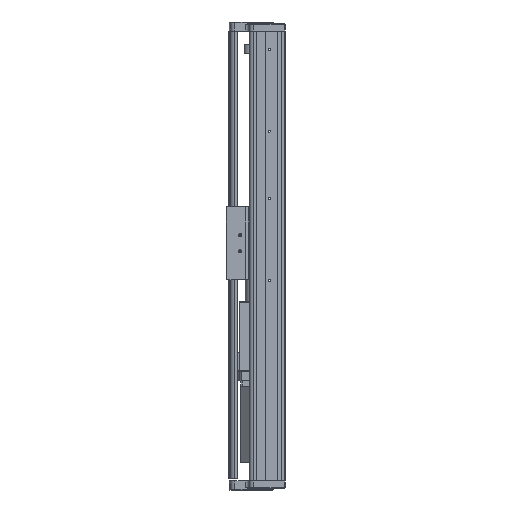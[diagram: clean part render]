
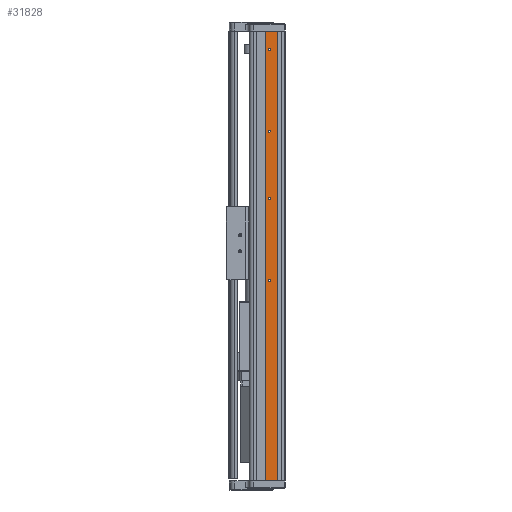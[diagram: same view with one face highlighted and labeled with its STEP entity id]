
A CAD part, left-side view. The second image highlights one B-rep face of the part: STEP entity #31828.
In plain terms, the highlighted planar face has unit normal (-1, 0, 0).
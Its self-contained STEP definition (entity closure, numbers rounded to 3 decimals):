
#2833 = CARTESIAN_POINT ( 'NONE',  ( 102.378, 0., 494. ) ) ;
#2837 = PLANE ( 'NONE',  #20838 ) ;
#2849 = DIRECTION ( 'NONE',  ( 0., 0., -1. ) ) ;
#2852 = DIRECTION ( 'NONE',  ( 1., 0., 0. ) ) ;
#3781 = FACE_BOUND ( 'NONE', #14913, .T. ) ;
#3782 = FACE_BOUND ( 'NONE', #14929, .T. ) ;
#3783 = FACE_BOUND ( 'NONE', #14910, .T. ) ;
#3809 = FACE_OUTER_BOUND ( 'NONE', #14839, .T. ) ;
#3824 = FACE_BOUND ( 'NONE', #14892, .T. ) ;
#7109 = CIRCLE ( 'NONE', #15701, 1.25 ) ;
#7118 = CIRCLE ( 'NONE', #15660, 1.25 ) ;
#7122 = CIRCLE ( 'NONE', #15689, 1.25 ) ;
#7154 = CIRCLE ( 'NONE', #15688, 1.25 ) ;
#9636 = CARTESIAN_POINT ( 'NONE',  ( 102.378, 63.262, 311.25 ) ) ;
#9670 = CARTESIAN_POINT ( 'NONE',  ( 102.378, 63.262, 218.75 ) ) ;
#9682 = CARTESIAN_POINT ( 'NONE',  ( 102.378, 63.262, 385.25 ) ) ;
#9683 = CARTESIAN_POINT ( 'NONE',  ( 102.378, 63.262, 382.75 ) ) ;
#9720 = CARTESIAN_POINT ( 'NONE',  ( 102.378, 63.262, 475.25 ) ) ;
#9725 = CARTESIAN_POINT ( 'NONE',  ( 102.378, 63.262, 221.25 ) ) ;
#9737 = CARTESIAN_POINT ( 'NONE',  ( 102.378, 63.262, 472.75 ) ) ;
#9756 = CARTESIAN_POINT ( 'NONE',  ( 102.378, 63.262, 308.75 ) ) ;
#11393 = VERTEX_POINT ( 'NONE', #21518 ) ;
#11411 = VERTEX_POINT ( 'NONE', #21557 ) ;
#11571 = VERTEX_POINT ( 'NONE', #22297 ) ;
#11583 = VERTEX_POINT ( 'NONE', #22324 ) ;
#12496 = ORIENTED_EDGE ( 'NONE', *, *, #50286, .T. ) ;
#12518 = ORIENTED_EDGE ( 'NONE', *, *, #49057, .T. ) ;
#12540 = ORIENTED_EDGE ( 'NONE', *, *, #49112, .T. ) ;
#12543 = ORIENTED_EDGE ( 'NONE', *, *, #49053, .T. ) ;
#12553 = ORIENTED_EDGE ( 'NONE', *, *, #51580, .F. ) ;
#12557 = ORIENTED_EDGE ( 'NONE', *, *, #50281, .T. ) ;
#12563 = ORIENTED_EDGE ( 'NONE', *, *, #49109, .T. ) ;
#12570 = ORIENTED_EDGE ( 'NONE', *, *, #50285, .T. ) ;
#12571 = ORIENTED_EDGE ( 'NONE', *, *, #49047, .F. ) ;
#12592 = ORIENTED_EDGE ( 'NONE', *, *, #50304, .T. ) ;
#12601 = ORIENTED_EDGE ( 'NONE', *, *, #49110, .T. ) ;
#12603 = ORIENTED_EDGE ( 'NONE', *, *, #49073, .T. ) ;
#13126 = VERTEX_POINT ( 'NONE', #9636 ) ;
#13161 = VERTEX_POINT ( 'NONE', #9725 ) ;
#13181 = VERTEX_POINT ( 'NONE', #9670 ) ;
#13196 = VERTEX_POINT ( 'NONE', #9682 ) ;
#13200 = VERTEX_POINT ( 'NONE', #9683 ) ;
#13236 = VERTEX_POINT ( 'NONE', #9720 ) ;
#13266 = VERTEX_POINT ( 'NONE', #9756 ) ;
#13297 = VERTEX_POINT ( 'NONE', #9737 ) ;
#14839 = EDGE_LOOP ( 'NONE', ( #12518, #12571, #12553, #12543 ) ) ;
#14892 = EDGE_LOOP ( 'NONE', ( #12601, #12496 ) ) ;
#14910 = EDGE_LOOP ( 'NONE', ( #12603, #12592 ) ) ;
#14913 = EDGE_LOOP ( 'NONE', ( #12563, #12570 ) ) ;
#14929 = EDGE_LOOP ( 'NONE', ( #12540, #12557 ) ) ;
#15524 = AXIS2_PLACEMENT_3D ( 'NONE', #41347, #41365, #41391 ) ;
#15526 = AXIS2_PLACEMENT_3D ( 'NONE', #41419, #41417, #41395 ) ;
#15529 = AXIS2_PLACEMENT_3D ( 'NONE', #41402, #41358, #41394 ) ;
#15539 = AXIS2_PLACEMENT_3D ( 'NONE', #40269, #40909, #39937 ) ;
#15660 = AXIS2_PLACEMENT_3D ( 'NONE', #30020, #30030, #30033 ) ;
#15688 = AXIS2_PLACEMENT_3D ( 'NONE', #30191, #30192, #30226 ) ;
#15689 = AXIS2_PLACEMENT_3D ( 'NONE', #30121, #30142, #30144 ) ;
#15701 = AXIS2_PLACEMENT_3D ( 'NONE', #30128, #30068, #30130 ) ;
#16938 = VECTOR ( 'NONE', #40900, 1000. ) ;
#16962 = LINE ( 'NONE', #40766, #16989 ) ;
#16973 = LINE ( 'NONE', #40896, #16938 ) ;
#16989 = VECTOR ( 'NONE', #40882, 1000. ) ;
#17010 = LINE ( 'NONE', #40898, #17036 ) ;
#17036 = VECTOR ( 'NONE', #39694, 1000. ) ;
#17064 = CIRCLE ( 'NONE', #15539, 1.25 ) ;
#17071 = CIRCLE ( 'NONE', #15524, 1.25 ) ;
#17086 = CIRCLE ( 'NONE', #15529, 1.25 ) ;
#17119 = CIRCLE ( 'NONE', #15526, 1.25 ) ;
#20838 = AXIS2_PLACEMENT_3D ( 'NONE', #2833, #2852, #2849 ) ;
#21518 = CARTESIAN_POINT ( 'NONE',  ( 102.378, 54.188, 494. ) ) ;
#21557 = CARTESIAN_POINT ( 'NONE',  ( 102.378, 67.298, 494. ) ) ;
#22297 = CARTESIAN_POINT ( 'NONE',  ( 102.378, 67.298, 0. ) ) ;
#22324 = CARTESIAN_POINT ( 'NONE',  ( 102.378, 54.188, 0. ) ) ;
#27880 = DIRECTION ( 'NONE',  ( 0., -1., 0. ) ) ;
#27892 = CARTESIAN_POINT ( 'NONE',  ( 102.378, 0., 494. ) ) ;
#30020 = CARTESIAN_POINT ( 'NONE',  ( 102.378, 63.262, 220. ) ) ;
#30030 = DIRECTION ( 'NONE',  ( 1., 0., 0. ) ) ;
#30033 = DIRECTION ( 'NONE',  ( 0., 0., -1. ) ) ;
#30068 = DIRECTION ( 'NONE',  ( 1., 0., 0. ) ) ;
#30121 = CARTESIAN_POINT ( 'NONE',  ( 102.378, 63.262, 384. ) ) ;
#30128 = CARTESIAN_POINT ( 'NONE',  ( 102.378, 63.262, 474. ) ) ;
#30130 = DIRECTION ( 'NONE',  ( 0., 0., -1. ) ) ;
#30142 = DIRECTION ( 'NONE',  ( 1., 0., 0. ) ) ;
#30144 = DIRECTION ( 'NONE',  ( 0., 0., -1. ) ) ;
#30191 = CARTESIAN_POINT ( 'NONE',  ( 102.378, 63.262, 310. ) ) ;
#30192 = DIRECTION ( 'NONE',  ( 1., 0., 0. ) ) ;
#30226 = DIRECTION ( 'NONE',  ( 0., 0., -1. ) ) ;
#31828 = ADVANCED_FACE ( 'NONE', ( #3782, #3783, #3781, #3824, #3809 ), #2837, .F. ) ;
#39694 = DIRECTION ( 'NONE',  ( 0., -1., 0. ) ) ;
#39937 = DIRECTION ( 'NONE',  ( 0., 0., -1. ) ) ;
#40269 = CARTESIAN_POINT ( 'NONE',  ( 102.378, 63.262, 310. ) ) ;
#40766 = CARTESIAN_POINT ( 'NONE',  ( 102.378, 54.188, 494. ) ) ;
#40882 = DIRECTION ( 'NONE',  ( 0., 0., -1. ) ) ;
#40896 = CARTESIAN_POINT ( 'NONE',  ( 102.378, 67.298, 494. ) ) ;
#40898 = CARTESIAN_POINT ( 'NONE',  ( 102.378, 0., 0. ) ) ;
#40900 = DIRECTION ( 'NONE',  ( 0., 0., -1. ) ) ;
#40909 = DIRECTION ( 'NONE',  ( 1., 0., 0. ) ) ;
#41347 = CARTESIAN_POINT ( 'NONE',  ( 102.378, 63.262, 220. ) ) ;
#41358 = DIRECTION ( 'NONE',  ( 1., 0., 0. ) ) ;
#41365 = DIRECTION ( 'NONE',  ( 1., 0., 0. ) ) ;
#41391 = DIRECTION ( 'NONE',  ( 0., 0., -1. ) ) ;
#41394 = DIRECTION ( 'NONE',  ( 0., 0., -1. ) ) ;
#41395 = DIRECTION ( 'NONE',  ( 0., 0., -1. ) ) ;
#41402 = CARTESIAN_POINT ( 'NONE',  ( 102.378, 63.262, 384. ) ) ;
#41417 = DIRECTION ( 'NONE',  ( 1., 0., 0. ) ) ;
#41419 = CARTESIAN_POINT ( 'NONE',  ( 102.378, 63.262, 474. ) ) ;
#49047 = EDGE_CURVE ( 'NONE', #11393, #11583, #16962, .T. ) ;
#49053 = EDGE_CURVE ( 'NONE', #11411, #11571, #16973, .T. ) ;
#49057 = EDGE_CURVE ( 'NONE', #11571, #11583, #17010, .T. ) ;
#49073 = EDGE_CURVE ( 'NONE', #13266, #13126, #17064, .T. ) ;
#49109 = EDGE_CURVE ( 'NONE', #13200, #13196, #17086, .T. ) ;
#49110 = EDGE_CURVE ( 'NONE', #13297, #13236, #17119, .T. ) ;
#49112 = EDGE_CURVE ( 'NONE', #13181, #13161, #17071, .T. ) ;
#50281 = EDGE_CURVE ( 'NONE', #13161, #13181, #7118, .T. ) ;
#50285 = EDGE_CURVE ( 'NONE', #13196, #13200, #7122, .T. ) ;
#50286 = EDGE_CURVE ( 'NONE', #13236, #13297, #7109, .T. ) ;
#50304 = EDGE_CURVE ( 'NONE', #13126, #13266, #7154, .T. ) ;
#51580 = EDGE_CURVE ( 'NONE', #11411, #11393, #54835, .T. ) ;
#54788 = VECTOR ( 'NONE', #27880, 1000. ) ;
#54835 = LINE ( 'NONE', #27892, #54788 ) ;
